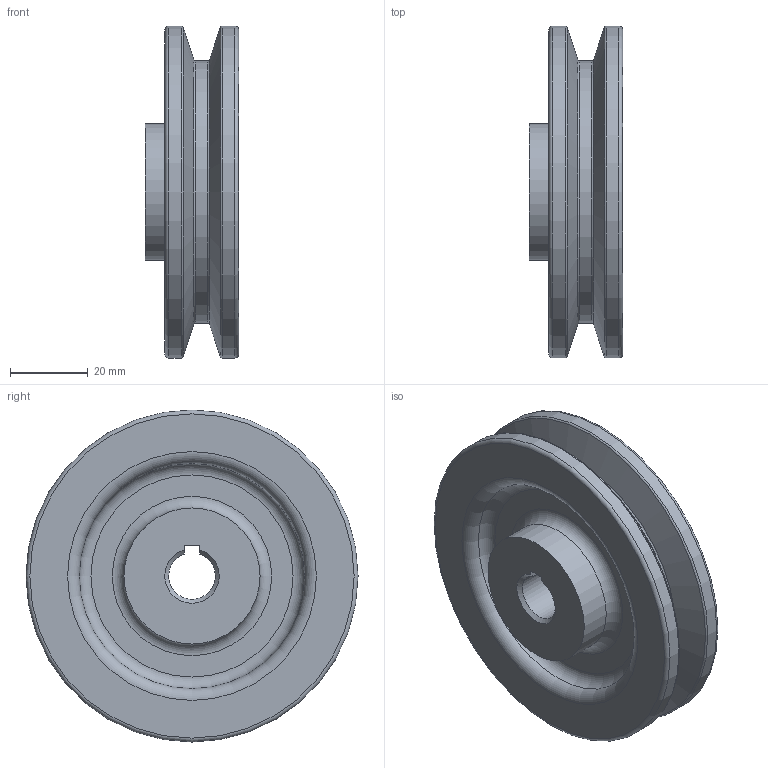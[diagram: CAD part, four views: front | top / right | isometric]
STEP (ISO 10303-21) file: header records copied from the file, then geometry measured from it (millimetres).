
FILE_DESCRIPTION(/* description */ (''),/* implementation_level */ '2;1');
FILE_NAME(/* name */ 'C:\Users\user\Desktop\390903E1010.stp',/* time_stamp */ '2019-09-28T11:30:00+09:00',/* author */ ('user'),/* organization */ (''),/* preprocessor_version */ 'ST-DEVELOPER v15.6',/* originating_system */ 'Autodesk Inventor 2015',/* authorisation */ '');
FILE_SCHEMA (('AUTOMOTIVE_DESIGN { 1 0 10303 214 3 1 1 }'));
Length unit declared in the file: millimetre
Products named in the file (1): 부품1
Bounding box: 24 x 85.4 x 85.4 mm (x, y, z)
Volume: 75838.5 mm3; surface area: 22548.3 mm2
Topology: 1 solids, 1 shells, 31 faces, 61 edges, 36 vertices
Faces by surface type: torus 12, plane 9, cylinder 6, cone 4
Full cylindrical faces by diameter (mm): 35 x2, 67.4 x1, 85.4 x2
Entity records: 720 total; most frequent: DIRECTION 130, CARTESIAN_POINT 118, ORIENTED_EDGE 84, AXIS2_PLACEMENT_3D 60, EDGE_LOOP 56, EDGE_CURVE 42, VERTEX_POINT 36, FACE_OUTER_BOUND 31
